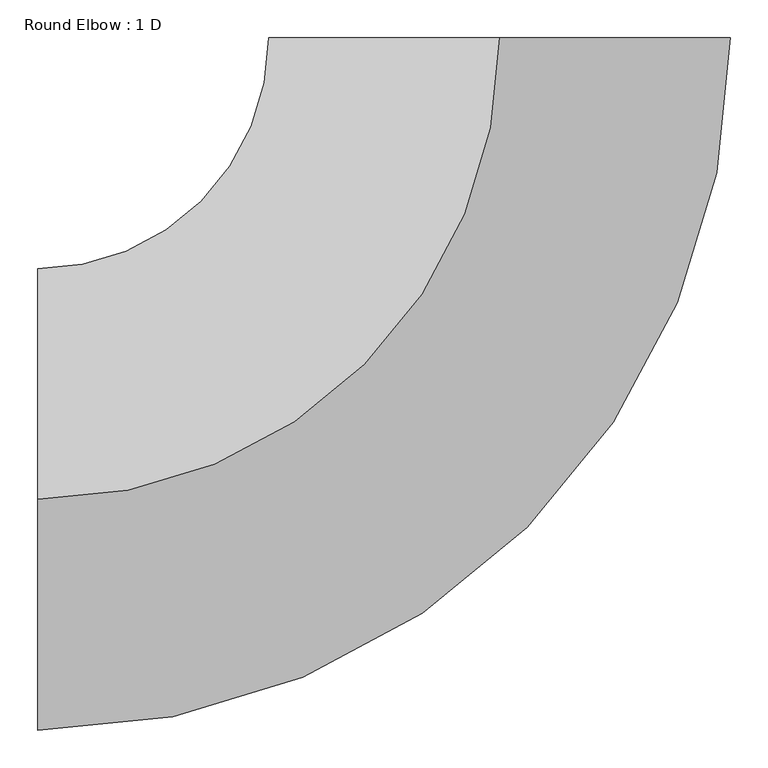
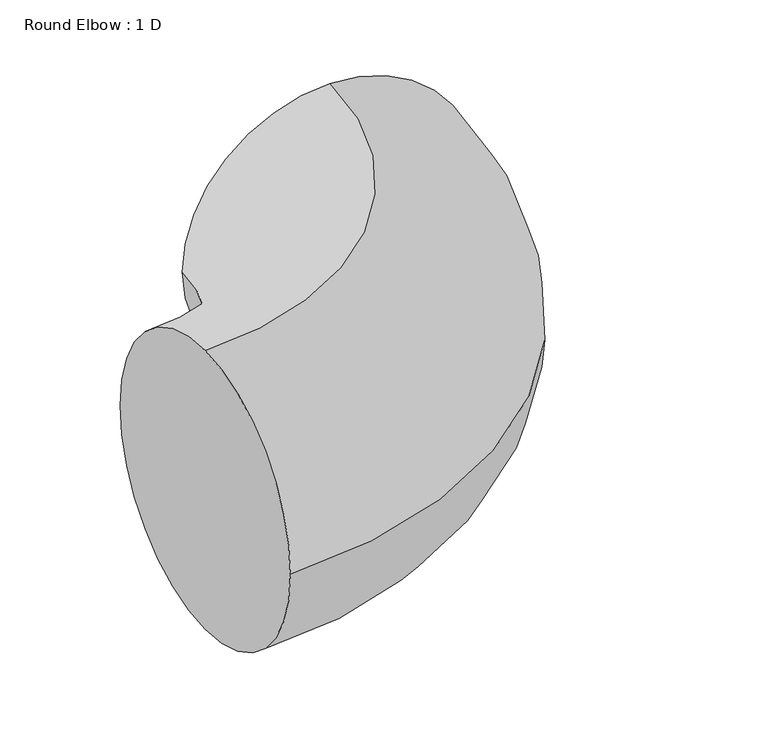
"""IFC4 building model written with IfcOpenShell, lengths in millimetres: duct fitting geometry, Round Elbow : 1 D."""

from ifc_helpers import new_model, si_unit, point, frame, origin, place, context, project, spatial, circle_curve, ellipse_curve, trimmed, source, transform, mapped, element, save
from ifc_brep_helpers import plane_surface, revolved_surface, advanced_brep


def round_elbow_1_d_29f30982(model_context):
    return source(origin(), model_context, "Body", "AdvancedBrep", [
        advanced_brep(
        [(-609.6, 0.0, 304.8), (-609.6, 304.8, 0.0), (-609.6, 0.0, -304.8), (-609.6, -304.8, 0.0), (0.0, 609.6, 304.8), (304.8, 609.6, 0.0), (0.0, 609.6, -304.8), (-304.8, 609.6, 0.0)],
        [
            (0, 1, circle_curve(frame((-609.6, 0.0, 0.0), z_axis=(-1.0, 0.0, 0.0), x_axis=(0.0, 1.0, 0.0)), 304.8)),
            (1, 2, circle_curve(frame((-609.6, 0.0, 0.0), z_axis=(-1.0, 0.0, 0.0), x_axis=(0.0, 1.0, 0.0)), 304.8)),
            (2, 3, circle_curve(frame((-609.6, 0.0, 0.0), z_axis=(-1.0, 0.0, 0.0), x_axis=(0.0, 1.0, 0.0)), 304.8)),
            (3, 0, circle_curve(frame((-609.6, 0.0, 0.0), z_axis=(-1.0, 0.0, 0.0), x_axis=(0.0, 1.0, 0.0)), 304.8)),
            (4, 5, circle_curve(frame((0.0, 609.6, 0.0), z_axis=(0.0, 1.0, 0.0), x_axis=(-1.0, 0.0, 0.0)), 304.8)),
            (5, 6, circle_curve(frame((0.0, 609.6, 0.0), z_axis=(0.0, 1.0, 0.0), x_axis=(-1.0, 0.0, 0.0)), 304.8)),
            (6, 7, circle_curve(frame((0.0, 609.6, 0.0), z_axis=(0.0, 1.0, 0.0), x_axis=(-1.0, 0.0, 0.0)), 304.8)),
            (7, 4, circle_curve(frame((0.0, 609.6, 0.0), z_axis=(0.0, 1.0, 0.0), x_axis=(-1.0, 0.0, 0.0)), 304.8)),
            (7, 1, circle_curve(frame((-609.6, 609.6, 0.0), z_axis=(0.0, 0.0, -1.0), x_axis=(0.0, -1.0, 0.0)), 304.8)),
            (0, 4, circle_curve(frame((-609.6, 609.6, 304.8), z_axis=(0.0, 0.0, 1.0), x_axis=(0.0, -1.0, 0.0)), 609.6)),
            (6, 2, circle_curve(frame((-609.6, 609.6, -304.8), z_axis=(0.0, 0.0, -1.0), x_axis=(0.0, -1.0, 0.0)), 609.6)),
            (5, 3, circle_curve(frame((-609.6, 609.6, 0.0), z_axis=(0.0, 0.0, -1.0), x_axis=(0.0, -1.0, 0.0)), 914.4)),
        ],
        [
            plane_surface(frame((-609.6, 0.0, 0.0), z_axis=(-1.0, 0.0, 0.0), x_axis=(0.0, 0.0, 1.0))),
            plane_surface(frame((0.0, 609.6, 0.0), z_axis=(0.0, 1.0, 0.0), x_axis=(0.0, 0.0, 1.0))),
            revolved_surface(trimmed(ellipse_curve(frame((-609.6, 0.0, 0.0), z_axis=(-1.0, 0.0, 0.0), x_axis=(0.0, 1.0, 0.0)), 304.8, 304.8), [point((-609.6, 0.0, 304.8))], [point((-609.6, 304.8, 0.0))], True, "CARTESIAN"), (-609.6, 609.6, 0.0), (0.0, 0.0, 1.0)),
            revolved_surface(trimmed(ellipse_curve(frame((-609.6, 0.0, 0.0), z_axis=(-1.0, 0.0, 0.0), x_axis=(0.0, 1.0, 0.0)), 304.8, 304.8), [point((-609.6, 304.8, 0.0))], [point((-609.6, 0.0, -304.8))], True, "CARTESIAN"), (-609.6, 609.6, 0.0), (0.0, 0.0, 1.0)),
            revolved_surface(trimmed(ellipse_curve(frame((-609.6, 0.0, 0.0), z_axis=(-1.0, 0.0, 0.0), x_axis=(0.0, 1.0, 0.0)), 304.8, 304.8), [point((-609.6, 0.0, -304.8))], [point((-609.6, -304.8, 0.0))], True, "CARTESIAN"), (-609.6, 609.6, 0.0), (0.0, 0.0, 1.0)),
            revolved_surface(trimmed(ellipse_curve(frame((-609.6, 0.0, 0.0), z_axis=(-1.0, 0.0, 0.0), x_axis=(0.0, 1.0, 0.0)), 304.8, 304.8), [point((-609.6, -304.8, 0.0))], [point((-609.6, 0.0, 304.8))], True, "CARTESIAN"), (-609.6, 609.6, 0.0), (0.0, 0.0, 1.0)),
        ],
        [
            (0, [[1, 2, 3, 4]]),
            (1, [[5, 6, 7, 8]]),
            (2, [[9, -1, 10, -8]]),
            (3, [[11, -2, -9, -7]]),
            (4, [[12, -3, -11, -6]]),
            (5, [[-10, -4, -12, -5]]),
        ],
    ),
    ])


if __name__ == "__main__":
    model = new_model("IFC4")
    model_context = context("Model", 3, world=origin())
    ifc_project = project(units=[si_unit("LENGTHUNIT", "METRE", prefix="MILLI")], contexts=[model_context])
    site = spatial("IfcSite", under=ifc_project)
    building = spatial("IfcBuilding", under=site)
    placement = place(None, origin())
    round_elbow_1_d_shape = round_elbow_1_d_29f30982(model_context)
    element("IfcDuctFitting", 1, ObjectType="Round Elbow : 1 D", at=placement, inside=building, context=model_context, shape_type="MappedRepresentation", body=[
        mapped(round_elbow_1_d_shape, transform((0.0, 0.0, 0.0), x_axis=(1.0, 0.0, 0.0), y_axis=(0.0, 1.0, 0.0), z_axis=(0.0, 0.0, 1.0))),
    ])
    save(model, "model.ifc")
